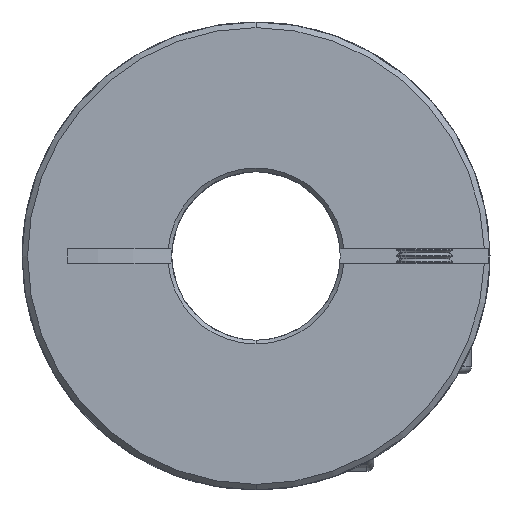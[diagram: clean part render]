
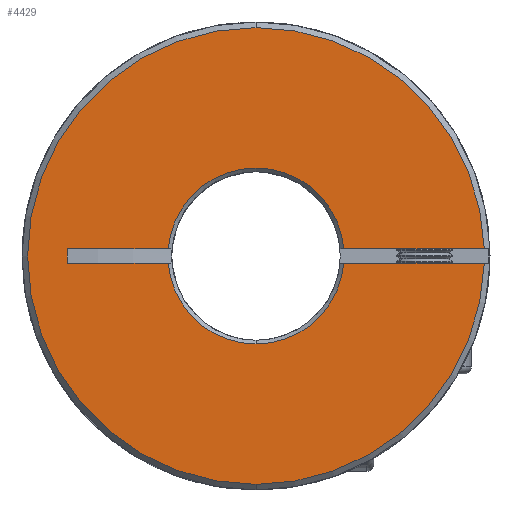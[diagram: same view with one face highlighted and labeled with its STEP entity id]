
A CAD part, front view. The second image highlights one B-rep face of the part: STEP entity #4429.
In plain terms, the highlighted planar face has unit normal (0, -1, 0).
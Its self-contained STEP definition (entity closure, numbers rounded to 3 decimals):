
#12 = CARTESIAN_POINT ( 'NONE',  ( 24.388, 0., 0.75 ) ) ;
#141 = CARTESIAN_POINT ( 'NONE',  ( 0., 0., -9.4 ) ) ;
#243 = CARTESIAN_POINT ( 'NONE',  ( -20.149, 0., -0.75 ) ) ;
#594 = DIRECTION ( 'NONE',  ( 0., 0., 1. ) ) ;
#678 = CARTESIAN_POINT ( 'NONE',  ( 0., 0., 0. ) ) ;
#1569 = CARTESIAN_POINT ( 'NONE',  ( -50., 0., -0.75 ) ) ;
#1821 = CARTESIAN_POINT ( 'NONE',  ( -50., 0., 0.75 ) ) ;
#1917 = CARTESIAN_POINT ( 'NONE',  ( -9.37, 0., -0.75 ) ) ;
#1947 = CARTESIAN_POINT ( 'NONE',  ( 0., 0., 0. ) ) ;
#2090 = AXIS2_PLACEMENT_3D ( 'NONE', #2255, #7687, #6197 ) ;
#2255 = CARTESIAN_POINT ( 'NONE',  ( 0., 0., 0. ) ) ;
#2324 = ORIENTED_EDGE ( 'NONE', *, *, #10706, .T. ) ;
#2500 = CARTESIAN_POINT ( 'NONE',  ( 0., 0., 0. ) ) ;
#2565 = EDGE_CURVE ( 'NONE', #16032, #15446, #13005, .T. ) ;
#2683 = EDGE_CURVE ( 'NONE', #13629, #15446, #15930, .T. ) ;
#2777 = ORIENTED_EDGE ( 'NONE', *, *, #17210, .T. ) ;
#3051 = ORIENTED_EDGE ( 'NONE', *, *, #2683, .T. ) ;
#3125 = DIRECTION ( 'NONE',  ( 1., 0., 0. ) ) ;
#3311 = CARTESIAN_POINT ( 'NONE',  ( -50., 0., -0.75 ) ) ;
#3372 = EDGE_CURVE ( 'NONE', #16032, #11073, #13400, .T. ) ;
#3508 = EDGE_CURVE ( 'NONE', #4755, #11239, #11488, .T. ) ;
#3777 = DIRECTION ( 'NONE',  ( 0., -1., 0. ) ) ;
#3815 = EDGE_CURVE ( 'NONE', #13989, #9195, #12320, .T. ) ;
#4005 = VERTEX_POINT ( 'NONE', #10418 ) ;
#4224 = CIRCLE ( 'NONE', #14292, 9.4 ) ;
#4233 = DIRECTION ( 'NONE',  ( 1., 0., 0. ) ) ;
#4429 = ADVANCED_FACE ( 'NONE', ( #15882 ), #7446, .F. ) ;
#4603 = EDGE_CURVE ( 'NONE', #6155, #4967, #16510, .T. ) ;
#4724 = CARTESIAN_POINT ( 'NONE',  ( -20.149, 0., -0.75 ) ) ;
#4755 = VERTEX_POINT ( 'NONE', #15894 ) ;
#4967 = VERTEX_POINT ( 'NONE', #12 ) ;
#5324 = ORIENTED_EDGE ( 'NONE', *, *, #8910, .T. ) ;
#5938 = DIRECTION ( 'NONE',  ( 1., 0., 0. ) ) ;
#6030 = DIRECTION ( 'NONE',  ( 0., 0., 1. ) ) ;
#6155 = VERTEX_POINT ( 'NONE', #14867 ) ;
#6197 = DIRECTION ( 'NONE',  ( 0., 0., 1. ) ) ;
#6408 = DIRECTION ( 'NONE',  ( 0., -1., 0. ) ) ;
#6734 = CARTESIAN_POINT ( 'NONE',  ( -50., 0., 0.75 ) ) ;
#6809 = ORIENTED_EDGE ( 'NONE', *, *, #15737, .T. ) ;
#6811 = AXIS2_PLACEMENT_3D ( 'NONE', #678, #13650, #13589 ) ;
#7082 = VECTOR ( 'NONE', #5938, 1000. ) ;
#7269 = EDGE_CURVE ( 'NONE', #11073, #4005, #7414, .T. ) ;
#7336 = ORIENTED_EDGE ( 'NONE', *, *, #4603, .T. ) ;
#7414 = LINE ( 'NONE', #6734, #9928 ) ;
#7423 = DIRECTION ( 'NONE',  ( 0., 1., 0. ) ) ;
#7446 = PLANE ( 'NONE',  #12577 ) ;
#7687 = DIRECTION ( 'NONE',  ( 0., 1., 0. ) ) ;
#7866 = DIRECTION ( 'NONE',  ( 0., 0., 1. ) ) ;
#7924 = CARTESIAN_POINT ( 'NONE',  ( 0., 0., 0. ) ) ;
#8330 = AXIS2_PLACEMENT_3D ( 'NONE', #2500, #6408, #9058 ) ;
#8390 = VECTOR ( 'NONE', #11439, 1000. ) ;
#8910 = EDGE_CURVE ( 'NONE', #13989, #13629, #4224, .T. ) ;
#9058 = DIRECTION ( 'NONE',  ( 0., 0., 1. ) ) ;
#9195 = VERTEX_POINT ( 'NONE', #10784 ) ;
#9853 = CARTESIAN_POINT ( 'NONE',  ( 0., 0., -24.4 ) ) ;
#9928 = VECTOR ( 'NONE', #12113, 1000. ) ;
#10008 = CARTESIAN_POINT ( 'NONE',  ( 0., 0., 0. ) ) ;
#10026 = VECTOR ( 'NONE', #4233, 1000. ) ;
#10100 = DIRECTION ( 'NONE',  ( 0., 0., 1. ) ) ;
#10120 = DIRECTION ( 'NONE',  ( 0., 1., 0. ) ) ;
#10167 = CIRCLE ( 'NONE', #15733, 24.4 ) ;
#10261 = CARTESIAN_POINT ( 'NONE',  ( -20.149, 0., 0.75 ) ) ;
#10418 = CARTESIAN_POINT ( 'NONE',  ( -9.37, 0., 0.75 ) ) ;
#10494 = ORIENTED_EDGE ( 'NONE', *, *, #3508, .T. ) ;
#10586 = ORIENTED_EDGE ( 'NONE', *, *, #3372, .T. ) ;
#10706 = EDGE_CURVE ( 'NONE', #4967, #4755, #16615, .T. ) ;
#10782 = ORIENTED_EDGE ( 'NONE', *, *, #7269, .T. ) ;
#10784 = CARTESIAN_POINT ( 'NONE',  ( 24.388, 0., -0.75 ) ) ;
#11073 = VERTEX_POINT ( 'NONE', #10261 ) ;
#11239 = VERTEX_POINT ( 'NONE', #9853 ) ;
#11439 = DIRECTION ( 'NONE',  ( 0., 0., 1. ) ) ;
#11488 = CIRCLE ( 'NONE', #8330, 24.4 ) ;
#12113 = DIRECTION ( 'NONE',  ( 1., 0., 0. ) ) ;
#12262 = ORIENTED_EDGE ( 'NONE', *, *, #2565, .F. ) ;
#12320 = LINE ( 'NONE', #1569, #10026 ) ;
#12476 = CARTESIAN_POINT ( 'NONE',  ( 9.37, 0., -0.75 ) ) ;
#12577 = AXIS2_PLACEMENT_3D ( 'NONE', #16816, #10120, #6030 ) ;
#12783 = VECTOR ( 'NONE', #3125, 1000. ) ;
#13005 = LINE ( 'NONE', #3311, #12783 ) ;
#13400 = LINE ( 'NONE', #243, #8390 ) ;
#13589 = DIRECTION ( 'NONE',  ( 0., 0., 1. ) ) ;
#13629 = VERTEX_POINT ( 'NONE', #141 ) ;
#13650 = DIRECTION ( 'NONE',  ( 0., -1., 0. ) ) ;
#13989 = VERTEX_POINT ( 'NONE', #12476 ) ;
#14292 = AXIS2_PLACEMENT_3D ( 'NONE', #10008, #15386, #594 ) ;
#14867 = CARTESIAN_POINT ( 'NONE',  ( 9.37, 0., 0.75 ) ) ;
#15255 = ORIENTED_EDGE ( 'NONE', *, *, #3815, .F. ) ;
#15386 = DIRECTION ( 'NONE',  ( 0., 1., 0. ) ) ;
#15446 = VERTEX_POINT ( 'NONE', #1917 ) ;
#15727 = EDGE_LOOP ( 'NONE', ( #15255, #5324, #3051, #12262, #10586, #10782, #2777, #7336, #2324, #10494, #6809 ) ) ;
#15733 = AXIS2_PLACEMENT_3D ( 'NONE', #7924, #3777, #7866 ) ;
#15737 = EDGE_CURVE ( 'NONE', #11239, #9195, #10167, .T. ) ;
#15752 = CIRCLE ( 'NONE', #17000, 9.4 ) ;
#15882 = FACE_OUTER_BOUND ( 'NONE', #15727, .T. ) ;
#15894 = CARTESIAN_POINT ( 'NONE',  ( 0., 0., 24.4 ) ) ;
#15930 = CIRCLE ( 'NONE', #2090, 9.4 ) ;
#16032 = VERTEX_POINT ( 'NONE', #4724 ) ;
#16510 = LINE ( 'NONE', #1821, #7082 ) ;
#16615 = CIRCLE ( 'NONE', #6811, 24.4 ) ;
#16816 = CARTESIAN_POINT ( 'NONE',  ( -50., 0., 32.858 ) ) ;
#17000 = AXIS2_PLACEMENT_3D ( 'NONE', #1947, #7423, #10100 ) ;
#17210 = EDGE_CURVE ( 'NONE', #4005, #6155, #15752, .T. ) ;
